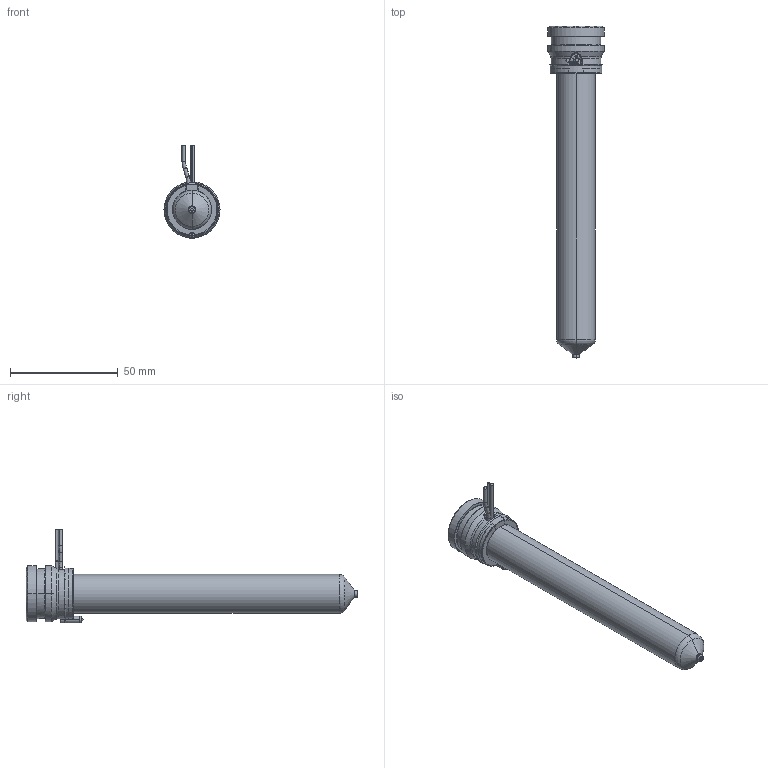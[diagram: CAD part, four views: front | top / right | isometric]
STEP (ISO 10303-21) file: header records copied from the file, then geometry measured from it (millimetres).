
FILE_DESCRIPTION((''),'2;1');
FILE_NAME('MPN-08-24-VP3-136-A','2026-02-05T12:02:02',('UPTIO'),('Thermoplay S.p.A.'),'CREO PARAMETRIC BY PTC INC, 2023494','CREO PARAMETRIC BY PTC INC, 2023494','');
FILE_SCHEMA(('CONFIG_CONTROL_DESIGN','SHAPE_APPEARANCE_LAYERS_GROUPS'));
Length unit declared in the file: millimetre
Products named in the file (1): MPN-08-24-VP3-136-A
Bounding box: 26 x 154.1 x 43.5 mm (x, y, z)
Volume: 29498.5 mm3; surface area: 38148.4 mm2
Topology: 2 solids, 3 shells, 587 faces, 1560 edges, 971 vertices
Faces by surface type: cylinder 184, plane 143, bspline 108, torus 70, cone 68, sphere 8, extrusion 6
Entity records: 31960 total; most frequent: CARTESIAN_POINT 14726, ORIENTED_EDGE 3104, DIRECTION 2714, EDGE_CURVE 1552, AXIS2_PLACEMENT_3D 1061, VERTEX_POINT 971, EDGE_LOOP 615, VECTOR 592
